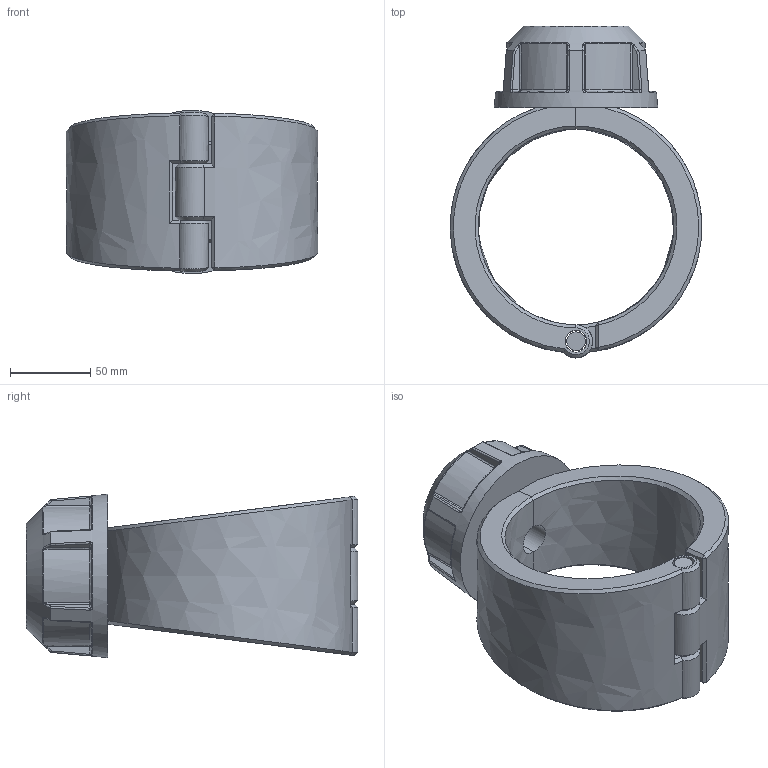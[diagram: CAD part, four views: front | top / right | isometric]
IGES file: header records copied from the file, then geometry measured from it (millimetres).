
Global section: file name: 163000122013; native system: Autodesk Inventor 2019; preprocessor: unknown; author: comp2; date: 20220203.115016; units: millimetre
Bounding box: 156.99 x 207 x 101.92 mm (x, y, z)
Volume: 848301.7 mm3; surface area: 128903.9 mm2
Topology: 4 solids, 4 shells, 203 faces, 486 edges, 293 vertices
Faces by surface type: bspline 203
